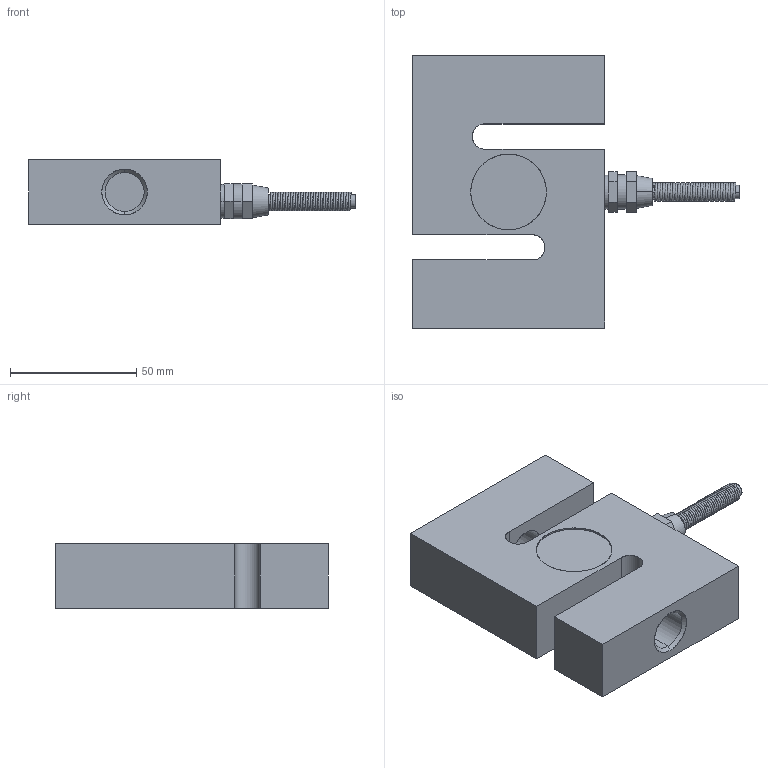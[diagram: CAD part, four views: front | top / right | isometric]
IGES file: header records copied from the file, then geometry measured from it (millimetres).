
Start section: SolidWorks IGES file using analytic representation for surfaces
Global section: file name: O:\16-Entwicklung\Projekte\03_Kraftsensoren\0229_KM1502\01_Mechanik & Gehäuse\01_Solid Works\01_Outline 3D files\3D_KM1502-20KN.IGS; native system: SolidWorks 2012; preprocessor: SolidWorks 2012; author: AndreB; date: 140123.155943; units: millimetre
Bounding box: 129.7 x 108 x 25.5 mm (x, y, z)
Surface area: 34138 mm2 (no closed solid volume)
Topology: 0 solids, 0 shells, 69 faces, 972 edges, 972 vertices
Faces by surface type: bspline 46, revolution 23
